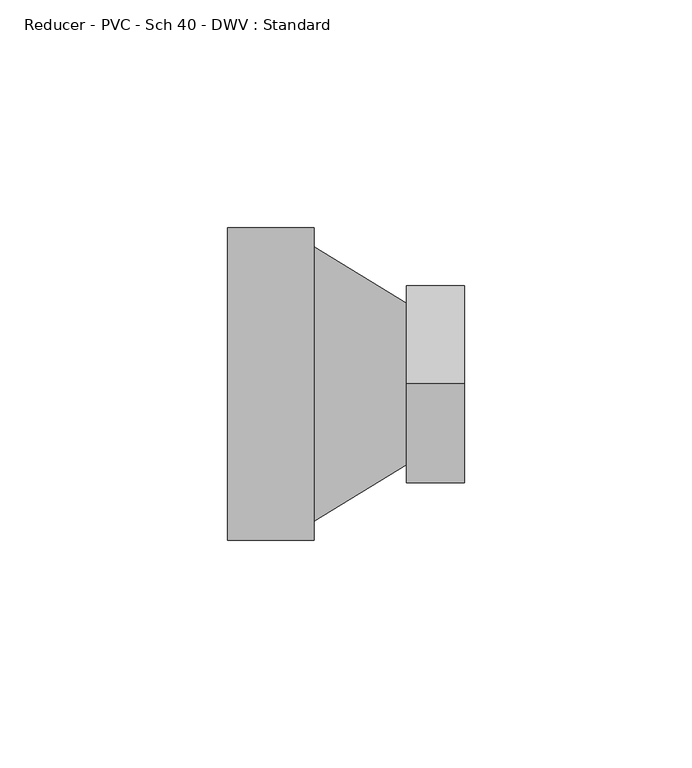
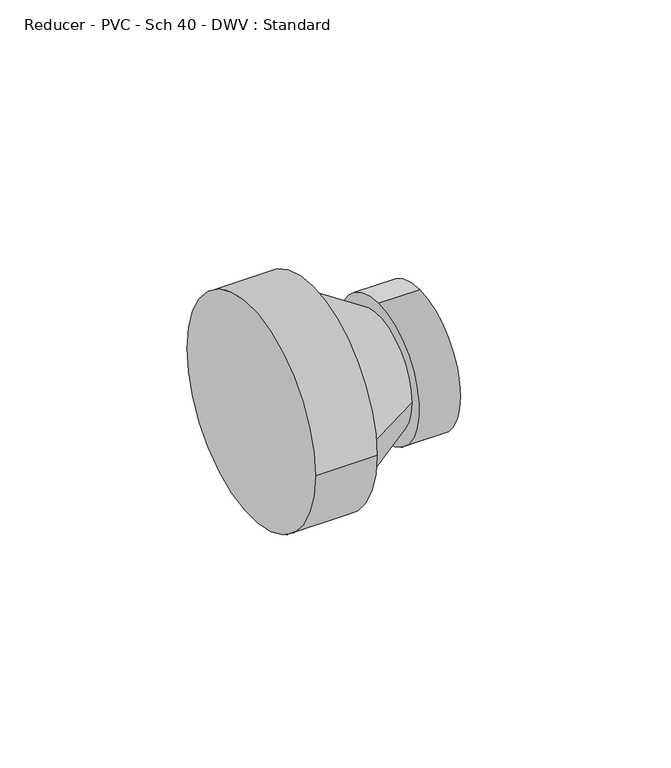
"""IFC4 building model written with IfcOpenShell, lengths in millimetres: pipe fitting geometry, Reducer - PVC - Sch 40 - DWV : Standard."""

from ifc_helpers import new_model, si_unit, frame, origin, place, context, project, spatial, polyline, circle_curve, source, transform, mapped, element, save
from ifc_brep_helpers import plane_surface, cylinder_surface, revolved_surface, advanced_brep


def reducer_pvc_sch_40_dwv_standard_ec22cfe8(model_context):
    return source(origin(), model_context, "Body", "AdvancedBrep", [
        advanced_brep(
        [(0.0, 34.3154, 0.0), (0.0, -34.3154, 0.0), (19.05, 34.3154, 0.0), (19.05, -34.3154, 0.0), (19.05, -30.1625, 0.0), (19.05, 30.1625, 0.0), (39.3580938, 17.7720625, 0.0), (39.3580938, -17.7720625, 0.0), (39.3580938, 0.0, 21.7031094), (39.3580938, 0.0, -21.7031094), (52.0580938, 0.0, 21.7031094), (52.0580938, 0.0, -21.7031094)],
        [
            (0, 1, circle_curve(frame((0.0, 0.0, 0.0), z_axis=(-1.0, 0.0, 0.0), x_axis=(0.0, -1.0, 0.0)), 34.3154)),
            (1, 0, circle_curve(frame((0.0, 0.0, 0.0), z_axis=(-1.0, 0.0, 0.0), x_axis=(0.0, -1.0, 0.0)), 34.3154)),
            (2, 3, circle_curve(frame((19.05, 0.0, 0.0), z_axis=(1.0, 0.0, 0.0), x_axis=(0.0, -1.0, 0.0)), 34.3154)),
            (3, 2, circle_curve(frame((19.05, 0.0, 0.0), z_axis=(1.0, 0.0, 0.0), x_axis=(0.0, -1.0, 0.0)), 34.3154)),
            (4, 5, circle_curve(frame((19.05, 0.0, 0.0), z_axis=(-1.0, 0.0, 0.0), x_axis=(0.0, -1.0, 0.0)), 30.1625)),
            (5, 4, circle_curve(frame((19.05, 0.0, 0.0), z_axis=(-1.0, 0.0, 0.0), x_axis=(0.0, 1.0, 0.0)), 30.1625)),
            (1, 3),
            (2, 0),
            (5, 6),
            (6, 7, circle_curve(frame((39.3580938, 0.0, 0.0), z_axis=(-1.0, 0.0, 0.0), x_axis=(0.0, 1.0, 0.0)), 17.7720625)),
            (7, 4),
            (7, 6, circle_curve(frame((39.3580938, 0.0, 0.0), z_axis=(-1.0, 0.0, 0.0), x_axis=(0.0, -1.0, 0.0)), 17.7720625)),
            (8, 9, circle_curve(frame((39.3580938, 0.0, 0.0), z_axis=(-1.0, 0.0, 0.0), x_axis=(0.0, 0.0, -1.0)), 21.7031094)),
            (9, 8, circle_curve(frame((39.3580938, 0.0, 0.0), z_axis=(-1.0, 0.0, 0.0), x_axis=(0.0, 0.0, -1.0)), 21.7031094)),
            (10, 11, circle_curve(frame((52.0580938, 0.0, 0.0), z_axis=(1.0, 0.0, 0.0), x_axis=(0.0, 0.0, -1.0)), 21.7031094)),
            (11, 10, circle_curve(frame((52.0580938, 0.0, 0.0), z_axis=(1.0, 0.0, 0.0), x_axis=(0.0, 0.0, -1.0)), 21.7031094)),
            (9, 11),
            (10, 8),
        ],
        [
            plane_surface(frame((0.0, 0.0, 0.0), z_axis=(-1.0, 0.0, 0.0), x_axis=(0.0, 0.0, 1.0))),
            plane_surface(frame((19.05, 0.0, 0.0), z_axis=(1.0, 0.0, 0.0), x_axis=(0.0, 0.0, 1.0))),
            cylinder_surface(frame((0.0, 0.0, 0.0), z_axis=(-1.0, 0.0, 0.0), x_axis=(0.0, -1.0, 0.0)), 34.3154),
            revolved_surface(polyline([(39.35809379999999, -17.77206247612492, 0.0), (19.049999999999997, -30.1625, 0.0)]), (68.4867433, 0.0, 0.0), (-1.0, 0.0, 0.0)),
            revolved_surface(polyline([(39.35809379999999, 17.77206247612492, 0.0), (19.049999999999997, 30.1625, 0.0)]), (68.4867433, 0.0, 0.0), (-1.0, 0.0, 0.0)),
            plane_surface(frame((39.3580938, 0.0, 0.0), z_axis=(-1.0, 0.0, 0.0), x_axis=(0.0, -1.0, 0.0))),
            plane_surface(frame((52.0580938, 0.0, 0.0), z_axis=(1.0, 0.0, 0.0), x_axis=(0.0, -1.0, 0.0))),
            cylinder_surface(frame((39.3580938, 0.0, 0.0), z_axis=(-1.0, 0.0, 0.0), x_axis=(0.0, 0.0, -1.0)), 21.7031094),
        ],
        [
            (0, [[1, 2]]),
            (1, [[3, 4], [5, 6]]),
            (2, [[7, -3, 8, -2]]),
            (2, [[-8, -4, -7, -1]]),
            (3, [[-6, 9, 10, 11]]),
            (4, [[12, -9, -5, -11]]),
            (5, [[13, 14], [-12, -10]]),
            (6, [[15, 16]]),
            (7, [[17, -15, 18, -14]]),
            (7, [[-18, -16, -17, -13]]),
        ],
    ),
    ])


if __name__ == "__main__":
    model = new_model("IFC4")
    model_context = context("Model", 3, world=origin())
    ifc_project = project(units=[si_unit("LENGTHUNIT", "METRE", prefix="MILLI")], contexts=[model_context])
    site = spatial("IfcSite", under=ifc_project)
    building = spatial("IfcBuilding", under=site)
    placement = place(None, origin())
    reducer_pvc_sch_40_dwv_standard_shape = reducer_pvc_sch_40_dwv_standard_ec22cfe8(model_context)
    element("IfcPipeFitting", 1, ObjectType="Reducer - PVC - Sch 40 - DWV : Standard", at=placement, inside=building, context=model_context, shape_type="MappedRepresentation", body=[
        mapped(reducer_pvc_sch_40_dwv_standard_shape, transform((0.0, 0.0, 0.0), x_axis=(1.0, 0.0, 0.0), y_axis=(0.0, 1.0, 0.0), z_axis=(0.0, 0.0, 1.0))),
    ])
    save(model, "model.ifc")
